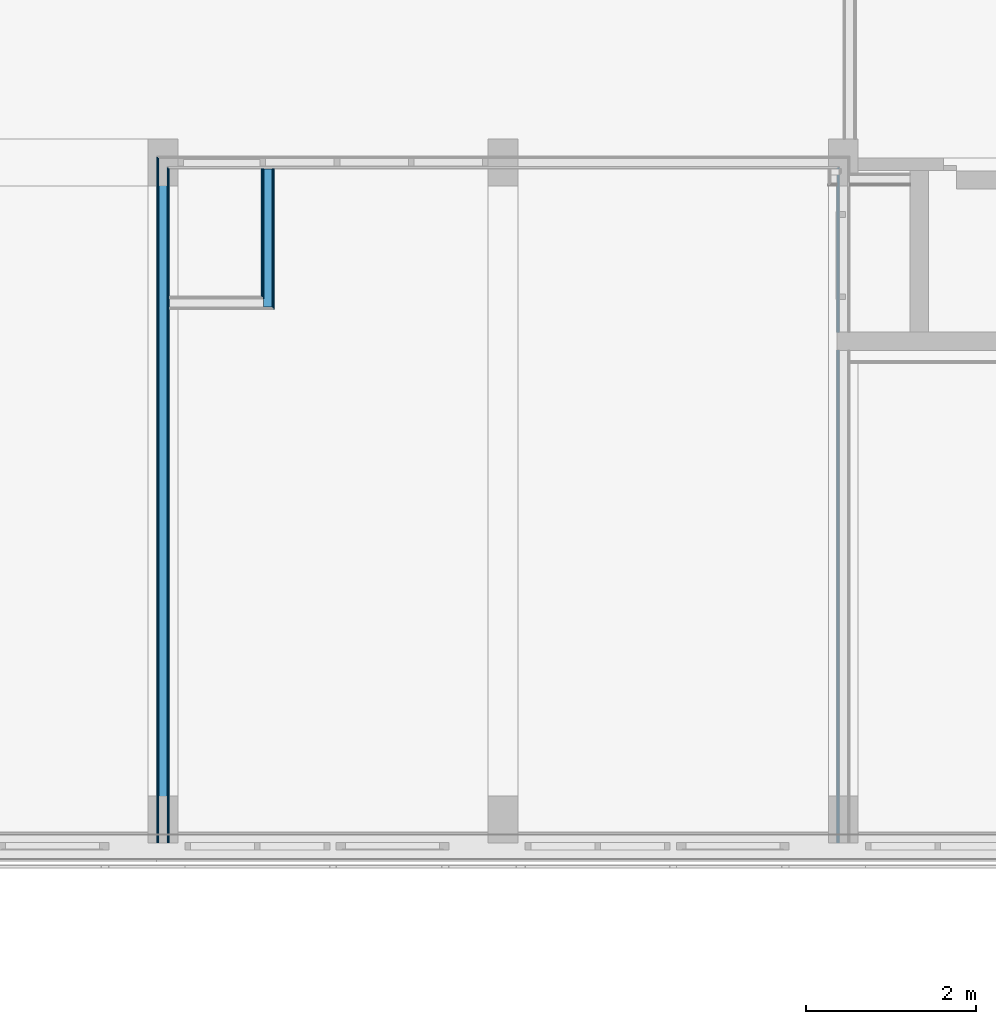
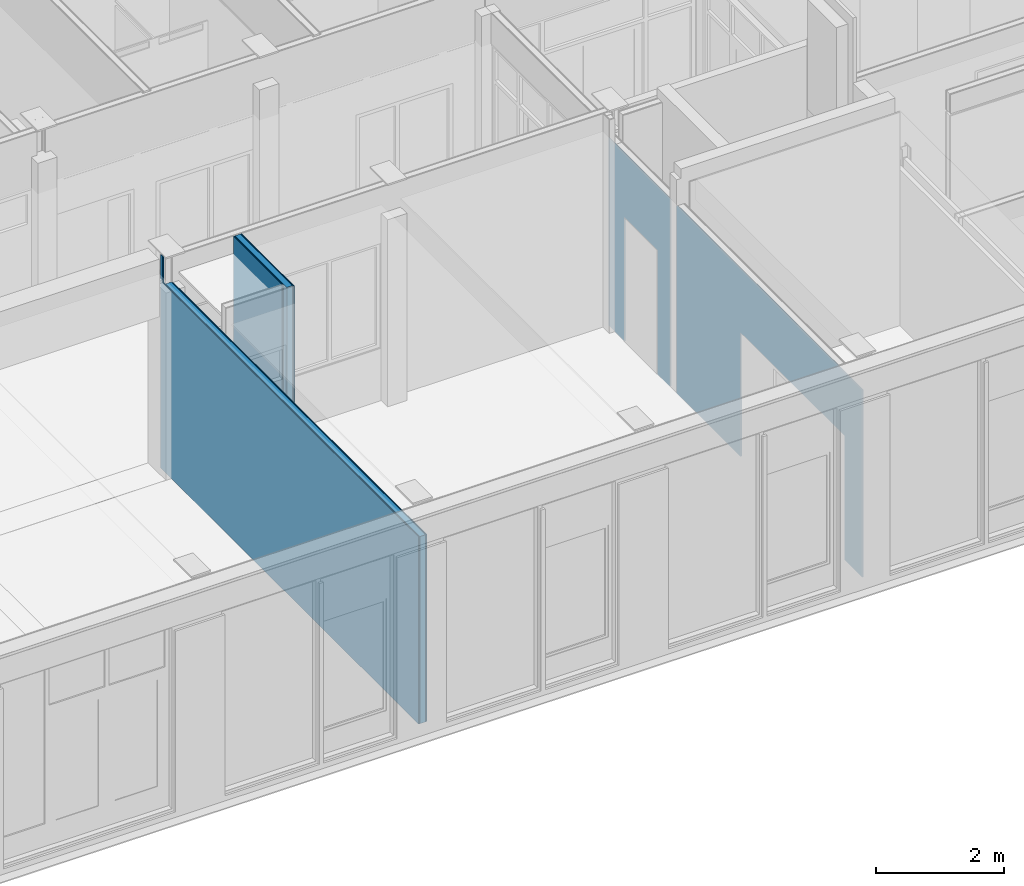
# One storey, part 60 of 109: 10 building element parts, 2 openings, 3 elements without a shape of their own, plus 2 elements that do not belong to this part.
"""IFC2X3 building model written with IfcOpenShell, lengths in millimetres."""

from ifc_helpers import new_model, entity, si_unit, converted_unit, derived_unit, money_unit, direction, frame, origin_with_axes, place, context, subcontext, project, spatial, faceted_brep, material, type_object, element, aggregate, save


model = new_model("IFC2X3")

# Units and contexts
model_context = context("Model", 3, precision=0.01, world=origin_with_axes(), true_north=direction((0.0, 1.0)))
body_context = subcontext(model_context, "Body", "Model", "MODEL_VIEW")
ifc_project = project(units=[si_unit("LENGTHUNIT", "METRE", prefix="MILLI"), si_unit("AREAUNIT", "SQUARE_METRE"), si_unit("VOLUMEUNIT", "CUBIC_METRE"), converted_unit("PLANEANGLEUNIT", "DEGREE", entity("IfcPlaneAngleMeasure", 0.0174532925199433), si_unit("PLANEANGLEUNIT", "RADIAN"), dimensions=[0, 0, 0, 0, 0, 0, 0]), money_unit("EUR"), converted_unit("TIMEUNIT", "Year", entity("IfcTimeMeasure", 31557600.0), si_unit("TIMEUNIT", "SECOND"), dimensions=[0, 0, 1, 0, 0, 0, 0]), si_unit("MASSUNIT", "GRAM", prefix="KILO"), si_unit("THERMODYNAMICTEMPERATUREUNIT", "DEGREE_CELSIUS"), si_unit("LUMINOUSINTENSITYUNIT", "LUMEN"), si_unit("ENERGYUNIT", "JOULE", prefix="MEGA"), derived_unit("THERMALCONDUCTANCEUNIT", [(si_unit("POWERUNIT", "WATT"), 1), (si_unit("LENGTHUNIT", "METRE"), -1), (si_unit("THERMODYNAMICTEMPERATUREUNIT", "KELVIN"), -1)]), derived_unit("SPECIFICHEATCAPACITYUNIT", [(si_unit("ENERGYUNIT", "JOULE"), 1), (si_unit("MASSUNIT", "GRAM", prefix="KILO"), -1), (si_unit("THERMODYNAMICTEMPERATUREUNIT", "KELVIN"), -1)]), derived_unit("MASSDENSITYUNIT", [(si_unit("MASSUNIT", "GRAM", prefix="KILO"), 1), (si_unit("VOLUMEUNIT", "CUBIC_METRE"), -1)])], contexts=[model_context])

# Site, building, storey
site_placement = place(None, origin_with_axes())
site = spatial("IfcSite", under=ifc_project, at=site_placement, Name="<site naam>", CompositionType="ELEMENT")
building_placement = place(site_placement, origin_with_axes())
building = spatial("IfcBuilding", under=site, at=building_placement, Name="<Naam gebouw>", CompositionType="ELEMENT")
storey_placement = place(building_placement, origin_with_axes())
storey = spatial("IfcBuildingStorey", under=building, at=storey_placement, Name="00 Begane grond", CompositionType="ELEMENT", Elevation=0.0)

# Wall, building element parts
wall_type = type_object("IfcWallType", Name="MS-01 GF 150 ECO DGS/2.100.2.A 150", PredefinedType="NOTDEFINED")
wall_1_placement = place(storey_placement, frame((40000.00000000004, 8000.000000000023, 0.0), z_axis=(0.0, 0.0, 1.0), x_axis=(0.0, -1.0, 0.0)))
wall_1 = element("IfcWall", 1, at=wall_1_placement, inside=storey, type_object=wall_type, Name="22_Binnenwand_MS-01")
ifc_material_1 = material(Name="gipsplaat")
building_element_part_1_placement = place(wall_1_placement, origin_with_axes())
building_element_part_1 = element("IfcBuildingElementPart", 2, at=building_element_part_1_placement, material=ifc_material_1, Name="gipsplaat", context=body_context, shape_type="Brep", body=[
    faceted_brep([(62.5, 49.99999999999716, 3570.0), (62.5, 62.5, 3570.0), (62.5, 62.5, 0.0), (62.5, 49.99999999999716, 0.0), (8000.000000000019, 62.50000000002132, 3570.0), (8000.000000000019, 50.00000000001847, 3570.0), (8000.000000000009, 62.50000000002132, 0.0), (8000.000000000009, 50.00000000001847, 0.0)], [[[0, 1, 2, 3]], [[4, 1, 0, 5]], [[1, 4, 6, 2]], [[2, 6, 7, 3]], [[5, 0, 3, 7]], [[4, 5, 7, 6]]]),
])
ifc_material_2 = material(Name="isolatie_steenwol LSW")
building_element_part_2_placement = place(wall_1_placement, origin_with_axes())
building_element_part_2 = element("IfcBuildingElementPart", 3, at=building_element_part_2_placement, material=ifc_material_2, Name="isolatie_steenwol LSW", context=body_context, shape_type="Brep", body=[
    faceted_brep([(49.99999999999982, -49.99999999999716, 3570.0), (49.99999999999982, 49.99999999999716, 3570.0), (49.99999999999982, 49.99999999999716, 0.0), (49.99999999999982, -49.99999999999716, 0.0), (8000.000000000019, 50.00000000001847, 3570.0), (8000.000000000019, -49.99999999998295, 3570.0), (8000.000000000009, 50.00000000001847, 0.0), (8000.000000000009, -49.99999999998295, 0.0)], [[[0, 1, 2, 3]], [[4, 1, 0, 5]], [[1, 4, 6, 2]], [[2, 6, 7, 3]], [[5, 0, 3, 7]], [[4, 5, 7, 6]]]),
])
building_element_part_3_placement = place(wall_1_placement, origin_with_axes())
building_element_part_3 = element("IfcBuildingElementPart", 4, at=building_element_part_3_placement, material=ifc_material_1, Name="gipsplaat", context=body_context, shape_type="Brep", body=[
    faceted_brep([(75.00000000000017, 62.5, 3570.0), (75.00000000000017, 75.00000000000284, 3570.0), (75.00000000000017, 75.00000000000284, 0.0), (75.00000000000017, 62.5, 0.0), (8000.000000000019, 75.00000000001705, 3570.0), (8000.000000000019, 62.50000000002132, 3570.0), (8000.000000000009, 75.00000000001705, 0.0), (8000.000000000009, 62.50000000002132, 0.0)], [[[0, 1, 2, 3]], [[4, 1, 0, 5]], [[1, 4, 6, 2]], [[2, 6, 7, 3]], [[5, 0, 3, 7]], [[4, 5, 7, 6]]]),
])
building_element_part_4_placement = place(wall_1_placement, origin_with_axes())
building_element_part_4 = element("IfcBuildingElementPart", 5, at=building_element_part_4_placement, material=ifc_material_1, Name="gipsplaat", context=body_context, shape_type="Brep", body=[
    faceted_brep([(0.0, -62.5, 4070.0), (0.0, -49.99999999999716, 4070.0), (-50.00000000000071, -49.99999999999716, 4070.0), (-50.00000000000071, -62.5, 4070.0), (0.0, -50.00000000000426, 3570.0), (0.0, -62.5, 3570.0), (8000.000000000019, -49.99999999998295, 3570.0), (8000.000000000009, -49.99999999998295, 0.0), (-50.00000000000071, -49.99999999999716, 0.0), (-50.00000000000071, -62.5, 0.0), (8000.000000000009, -62.49999999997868, 0.0), (8000.000000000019, -62.49999999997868, 3570.0)], [[[0, 1, 2, 3]], [[4, 1, 0, 5]], [[4, 6, 7, 8, 2, 1]], [[9, 3, 2, 8]], [[5, 0, 3, 9, 10, 11]], [[6, 4, 5, 11]], [[6, 11, 10, 7]], [[8, 7, 10, 9]]]),
])
building_element_part_5_placement = place(wall_1_placement, origin_with_axes())
building_element_part_5 = element("IfcBuildingElementPart", 6, at=building_element_part_5_placement, material=ifc_material_1, Name="gipsplaat", context=body_context, shape_type="Brep", body=[
    faceted_brep([(0.0, -75.00000000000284, 4070.0), (0.0, -62.5, 4070.0), (-62.5, -62.5, 4070.0), (-62.5, -75.00000000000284, 4070.0), (0.0, -62.5, 3570.0), (0.0, -75.00000000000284, 3570.0), (8000.000000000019, -62.49999999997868, 3570.0), (8000.000000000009, -62.49999999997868, 0.0), (-62.5, -62.5, 0.0), (-62.5, -75.00000000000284, 0.0), (8000.000000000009, -74.99999999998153, 0.0), (8000.000000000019, -74.99999999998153, 3570.0)], [[[0, 1, 2, 3]], [[4, 1, 0, 5]], [[4, 6, 7, 8, 2, 1]], [[9, 3, 2, 8]], [[5, 0, 3, 9, 10, 11]], [[6, 4, 5, 11]], [[6, 11, 10, 7]], [[8, 7, 10, 9]]]),
])
aggregate(wall_1, [building_element_part_1, building_element_part_2, building_element_part_3, building_element_part_4, building_element_part_5])

wall_2_placement = place(storey_placement, frame((41159.00000000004, 8000.000000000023, 0.0), z_axis=(0.0, 0.0, 1.0), x_axis=(0.0, -1.0, 0.0)))
wall_2 = element("IfcWall", 7, at=wall_2_placement, inside=storey, type_object=wall_type, Name="22_Binnenwand_MS-01")
building_element_part_6_placement = place(wall_2_placement, origin_with_axes())
building_element_part_6 = element("IfcBuildingElementPart", 8, at=building_element_part_6_placement, material=ifc_material_1, Name="gipsplaat", context=body_context, shape_type="Brep", body=[
    faceted_brep([(1725.000000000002, 149.9999999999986, 4070.0), (1725.000000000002, 149.9999999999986, 3.000000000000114), (75.00000000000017, 149.9999999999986, 3.000000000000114), (75.00000000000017, 149.9999999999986, 4070.0), (1725.000000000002, 137.5000000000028, 4070.0), (1725.000000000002, 137.5000000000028, 3.000000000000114), (75.00000000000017, 137.5000000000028, 3.000000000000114), (75.00000000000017, 137.5000000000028, 4070.0)], [[[0, 1, 2, 3]], [[4, 5, 1, 0]], [[5, 6, 2, 1]], [[3, 2, 6, 7]], [[7, 4, 0, 3]], [[7, 6, 5, 4]]]),
])
building_element_part_7_placement = place(wall_2_placement, origin_with_axes())
building_element_part_7 = element("IfcBuildingElementPart", 9, at=building_element_part_7_placement, material=ifc_material_2, Name="isolatie_steenwol LSW", context=body_context, shape_type="Brep", body=[
    faceted_brep([(1700.000000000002, 125.0, 4070.0), (1700.000000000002, 125.0, 3.000000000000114), (75.00000000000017, 125.0, 3.000000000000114), (75.00000000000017, 125.0, 4070.0), (1700.000000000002, 24.99999999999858, 4070.0), (1700.000000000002, 24.99999999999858, 3.000000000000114), (75.00000000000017, 24.99999999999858, 3.000000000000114), (75.00000000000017, 24.99999999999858, 4070.0)], [[[0, 1, 2, 3]], [[4, 5, 1, 0]], [[5, 6, 2, 1]], [[3, 2, 6, 7]], [[7, 4, 0, 3]], [[7, 6, 5, 4]]]),
])
building_element_part_8_placement = place(wall_2_placement, origin_with_axes())
building_element_part_8 = element("IfcBuildingElementPart", 10, at=building_element_part_8_placement, material=ifc_material_1, Name="gipsplaat", context=body_context, shape_type="Brep", body=[
    faceted_brep([(1712.500000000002, 137.5000000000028, 4070.0), (1712.500000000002, 137.5000000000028, 3.000000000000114), (75.00000000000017, 137.5000000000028, 3.000000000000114), (75.00000000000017, 137.5000000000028, 4070.0), (1712.500000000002, 125.0, 4070.0), (1712.500000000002, 125.0, 3.000000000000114), (75.00000000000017, 125.0, 3.000000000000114), (75.00000000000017, 125.0, 4070.0)], [[[0, 1, 2, 3]], [[4, 5, 1, 0]], [[5, 6, 2, 1]], [[3, 2, 6, 7]], [[7, 4, 0, 3]], [[7, 6, 5, 4]]]),
])
building_element_part_9_placement = place(wall_2_placement, origin_with_axes())
building_element_part_9 = element("IfcBuildingElementPart", 11, at=building_element_part_9_placement, material=ifc_material_1, Name="gipsplaat", context=body_context, shape_type="Brep", body=[
    faceted_brep([(1600.000000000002, 24.99999999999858, 4070.0), (1600.000000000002, 24.99999999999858, 3.000000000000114), (75.00000000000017, 24.99999999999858, 3.000000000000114), (75.00000000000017, 24.99999999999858, 4070.0), (1600.000000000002, 12.50000000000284, 4070.0), (1600.000000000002, 12.50000000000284, 3.000000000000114), (75.00000000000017, 12.50000000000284, 3.000000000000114), (75.00000000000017, 12.50000000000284, 4070.0)], [[[0, 1, 2, 3]], [[4, 5, 1, 0]], [[5, 6, 2, 1]], [[3, 2, 6, 7]], [[7, 4, 0, 3]], [[7, 6, 5, 4]]]),
])
building_element_part_10_placement = place(wall_2_placement, origin_with_axes())
building_element_part_10 = element("IfcBuildingElementPart", 12, at=building_element_part_10_placement, material=ifc_material_1, Name="gipsplaat", context=body_context, shape_type="Brep", body=[
    faceted_brep([(1587.500000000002, 12.50000000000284, 4070.0), (1587.500000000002, 12.50000000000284, 3.000000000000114), (75.00000000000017, 12.50000000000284, 3.000000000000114), (75.00000000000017, 12.50000000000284, 4070.0), (1587.500000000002, 0.0, 4070.0), (1587.500000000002, 0.0, 3.000000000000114), (75.00000000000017, 0.0, 3.000000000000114), (75.00000000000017, 0.0, 4070.0)], [[[0, 1, 2, 3]], [[4, 5, 1, 0]], [[5, 6, 2, 1]], [[3, 2, 6, 7]], [[7, 4, 0, 3]], [[7, 6, 5, 4]]]),
])
aggregate(wall_2, [building_element_part_6, building_element_part_7, building_element_part_8, building_element_part_9, building_element_part_10])

# Wall, openings, building element parts
wall_3_placement = place(storey_placement, frame((48000.00000000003, 8000.000000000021, 0.0), z_axis=(0.0, 0.0, 1.0), x_axis=(0.0, -1.0, 0.0)))
wall_3 = element("IfcWall", 13, at=wall_3_placement, inside=storey, type_object=wall_type, Name="22_Binnenwand_MS-01")
opening_1_placement = place(wall_3_placement, frame((1094.999999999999, 0.0, 0.0), z_axis=(0.0, 0.0, 1.0), x_axis=(1.0, 0.0, 0.0)))
element("IfcOpeningElement", 14, at=opening_1_placement, cuts=wall_3, Name="22_BI-A-04 sp_305", context=body_context, shape_type="Brep", body=[
    faceted_brep([(517.0000000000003, 76.00000000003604, 2367.0), (517.0000000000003, 76.00000000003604, 0.0), (-517.0000000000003, 76.00000000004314, 0.0), (-517.0000000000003, 76.00000000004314, 2367.0), (517.0000000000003, -76.00000000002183, 2367.0), (517.0000000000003, -76.00000000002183, 0.0), (-517.0000000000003, -76.00000000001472, 0.0), (-517.0000000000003, -76.00000000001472, 2367.0)], [[[0, 1, 2, 3]], [[4, 5, 1, 0]], [[5, 6, 2, 1]], [[6, 7, 3, 2]], [[7, 4, 0, 3]], [[6, 5, 4, 7]]]),
])
opening_2_placement = place(wall_3_placement, frame((5825.000000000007, 0.0, 0.0), z_axis=(0.0, 0.0, 1.0), x_axis=(1.0, 0.0, 0.0)))
element("IfcOpeningElement", 15, at=opening_2_placement, cuts=wall_3, Name="22_BI-E-06_305", context=body_context, shape_type="Brep", body=[
    faceted_brep([(1625.0, 76.00000000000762, 2367.0), (1625.0, 76.00000000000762, 0.0), (-1625.0, 76.00000000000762, 0.0), (-1625.0, 76.00000000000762, 2367.0), (1625.0, -76.00000000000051, 2367.0), (1625.0, -76.00000000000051, 0.0), (-1625.0, -76.00000000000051, 0.0), (-1625.0, -76.00000000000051, 2367.0)], [[[0, 1, 2, 3]], [[4, 5, 1, 0]], [[5, 6, 2, 1]], [[6, 7, 3, 2]], [[7, 4, 0, 3]], [[6, 5, 4, 7]]]),
])
building_element_part_11_placement = place(wall_3_placement, origin_with_axes())
building_element_part_11 = element("IfcBuildingElementPart", 16, at=building_element_part_11_placement, material=ifc_material_1, Name="gipsplaat", context=body_context, shape_type="Brep", body=[
    faceted_brep([(62.5, -62.5, 3570.0), (62.5, -49.99999999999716, 3570.0), (62.5, -49.99999999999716, 0.0), (62.5, -62.5, 0.0), (1994.999999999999, -49.99999999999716, 3570.0), (1994.999999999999, -62.5, 3570.0), (1994.999999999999, -49.99999999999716, 0.0), (1994.999999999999, -62.5, 0.0)], [[[0, 1, 2, 3]], [[4, 1, 0, 5]], [[1, 4, 6, 2]], [[6, 7, 3, 2]], [[5, 0, 3, 7]], [[4, 5, 7, 6]]]),
    faceted_brep([(2209.0, -62.5, 3570.0), (2209.0, -49.99999999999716, 3570.0), (2209.0, -49.99999999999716, 0.0), (2209.0, -62.5, 0.0), (8000.000000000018, -49.99999999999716, 3570.0), (8000.000000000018, -62.49999999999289, 3570.0), (8000.000000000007, -49.99999999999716, 0.0), (8000.000000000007, -62.49999999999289, 0.0)], [[[0, 1, 2, 3]], [[4, 1, 0, 5]], [[1, 4, 6, 2]], [[2, 6, 7, 3]], [[5, 0, 3, 7]], [[4, 5, 7, 6]]]),
])
building_element_part_12_placement = place(wall_3_placement, origin_with_axes())
building_element_part_12 = element("IfcBuildingElementPart", 17, at=building_element_part_12_placement, material=ifc_material_1, Name="gipsplaat", context=body_context, shape_type="Brep", body=[
    faceted_brep([(75.00000000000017, -75.00000000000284, 3570.0), (75.00000000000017, -62.5, 3570.0), (75.00000000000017, -62.5, 0.0), (75.00000000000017, -75.00000000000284, 0.0), (1994.999999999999, -62.5, 3570.0), (1994.999999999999, -75.00000000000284, 3570.0), (1994.999999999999, -62.5, 0.0), (1994.999999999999, -75.00000000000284, 0.0)], [[[0, 1, 2, 3]], [[4, 1, 0, 5]], [[1, 4, 6, 2]], [[6, 7, 3, 2]], [[5, 0, 3, 7]], [[4, 5, 7, 6]]]),
    faceted_brep([(2209.0, -75.00000000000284, 3570.0), (2209.0, -62.5, 3570.0), (2209.0, -62.5, 0.0), (2209.0, -75.00000000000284, 0.0), (8000.000000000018, -62.49999999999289, 3570.0), (8000.000000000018, -74.99999999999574, 3570.0), (8000.000000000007, -62.49999999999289, 0.0), (8000.000000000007, -74.99999999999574, 0.0)], [[[0, 1, 2, 3]], [[4, 1, 0, 5]], [[1, 4, 6, 2]], [[2, 6, 7, 3]], [[5, 0, 3, 7]], [[4, 5, 7, 6]]]),
])
aggregate(wall_3, [building_element_part_11, building_element_part_12])

save(model, "model.ifc")
